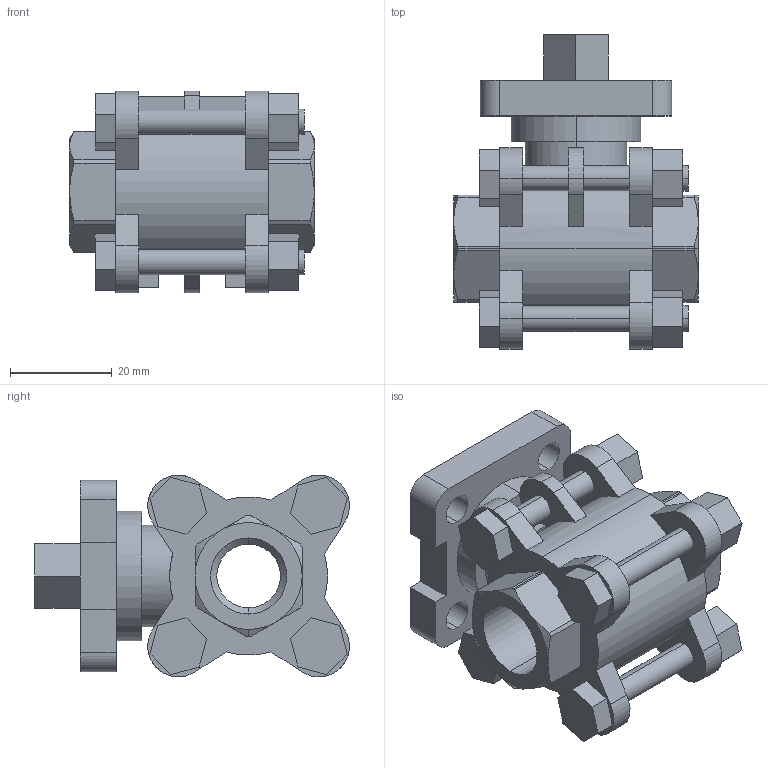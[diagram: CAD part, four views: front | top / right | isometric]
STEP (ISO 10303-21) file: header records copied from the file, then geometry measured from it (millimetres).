
FILE_DESCRIPTION (( 'STEP AP203' ), '1' );
FILE_NAME ('C3.622I0100FVPB0.STEP', '2018-10-12T06:35:09', ( '' ), ( '' ), 'SwSTEP 2.0', 'SolidWorks 2014', '' );
FILE_SCHEMA (( 'CONFIG_CONTROL_DESIGN' ));
Length unit declared in the file: millimetre
Products named in the file (1): C3.622I0100FVPB0
Bounding box: 48 x 61.78 x 39.58 mm (x, y, z)
Volume: 46043.5 mm3; surface area: 17375 mm2
Topology: 1 solids, 1 shells, 223 faces, 588 edges, 385 vertices
Faces by surface type: plane 132, cylinder 73, cone 18
Entity records: 7178 total; most frequent: CARTESIAN_POINT 1421, DIRECTION 1189, ORIENTED_EDGE 1176, EDGE_CURVE 588, AXIS2_PLACEMENT_3D 407, VERTEX_POINT 385, LINE 375, VECTOR 375
